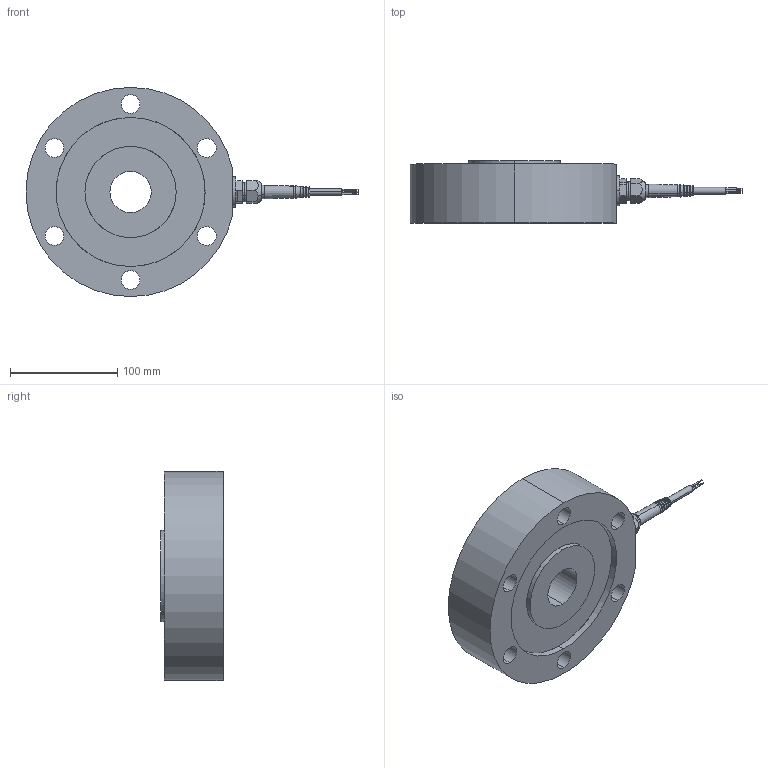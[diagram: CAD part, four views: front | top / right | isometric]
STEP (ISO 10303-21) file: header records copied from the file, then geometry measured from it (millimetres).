
FILE_DESCRIPTION (( 'STEP AP214' ), '1' );
FILE_NAME ('CLC-1 1000 kN Load Cell.STEP', '2021-06-17T08:16:37', ( '' ), ( '' ), 'SwSTEP 2.0', 'SolidWorks 2021', '' );
FILE_SCHEMA (( 'AUTOMOTIVE_DESIGN' ));
Length unit declared in the file: millimetre
Products named in the file (6): M26x1.5 - Pg9 - 6369829; Pg9 - 1009.52 6_2_14; CLC-1 1000 kN Load Cell; 501872r1; Standardkabel 4-Cond PVC; 501881r0
Assembly tree (6 placements, depth 2):
  CLC-1 1000 kN Load Cell
    501872r1
    501881r0  x2
    M26x1.5 - Pg9 - 6369829
    Pg9 - 1009.52 6_2_14
    Standardkabel 4-Cond PVC
Bounding box: 309.5 x 58 x 195 mm (x, y, z)
Volume: 1406069.2 mm3; surface area: 173289.6 mm2
Topology: 6 solids, 9 shells, 234 faces, 540 edges, 347 vertices
Faces by surface type: cylinder 106, plane 57, cone 45, bspline 16, torus 10
Entity records: 11772 total; most frequent: CARTESIAN_POINT 5510, DIRECTION 1112, ORIENTED_EDGE 1052, EDGE_CURVE 526, AXIS2_PLACEMENT_3D 480, VERTEX_POINT 339, EDGE_LOOP 279, CIRCLE 259
